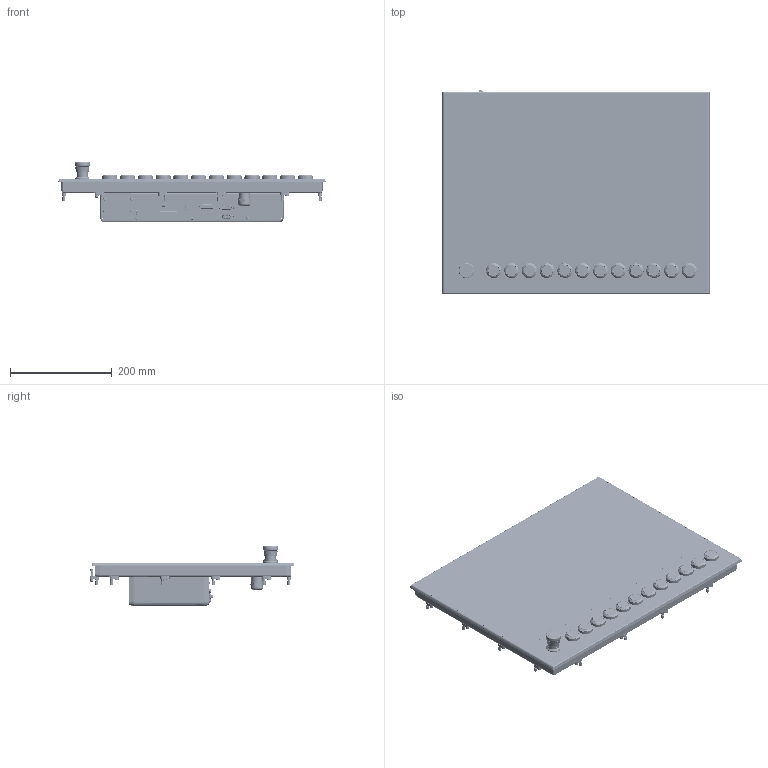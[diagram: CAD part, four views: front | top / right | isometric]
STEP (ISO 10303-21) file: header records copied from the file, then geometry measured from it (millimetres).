
FILE_DESCRIPTION((''),'2;1');
FILE_NAME('C:\_Vault-Workspace\CAD-Daten\Projekte\Projekte_serie\CP\CP2\CP22\Darstellungen\Export\CP2221-G008.stp','2013-12-19T12:17:12',('JenniferF'),(''),'Autodesk Inventor 2013','Autodesk Inventor 2013','');
FILE_SCHEMA(('AUTOMOTIVE_DESIGN { 1 2 10303 214 0 1 1 1 }'));
Length unit declared in the file: millimetre
Products named in the file (1): DS_CP2221-G008
Bounding box: 527 x 402.5 x 118.46 mm (x, y, z)
Volume: 8040855.1 mm3; surface area: 810966 mm2
Topology: 18 solids, 18 shells, 8971 faces, 24474 edges, 15890 vertices
Faces by surface type: plane 5588, cylinder 2065, bspline 484, cone 445, torus 359, sphere 30
Full cylindrical faces by diameter (mm): 0.6 x18, 1.01 x18, 1.07 x9, 1.2 x9, 1.56 x9, 1.567 x2, 1.58 x5, 1.65 x9, 2.1 x9, 2.15 x4, 2.156 x4, 2.3 x2, 2.459 x2, 2.693 x8, 2.788 x2, 2.8 x2, 3 x18, 3.05 x2, 3.2 x4, 3.242 x3, 3.3 x2, 3.4 x10, 3.63 x2, 3.683 x2, 4 x8, 4.1 x2, 4.3 x2, 4.4 x16, 4.6 x1, 4.917 x16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
Entity records: 303479 total; most frequent: CARTESIAN_POINT 73124, ORIENTED_EDGE 46230, DIRECTION 43349, EDGE_CURVE 23115, VECTOR 15829, LINE 15829, VERTEX_POINT 15453, AXIS2_PLACEMENT_3D 13760
